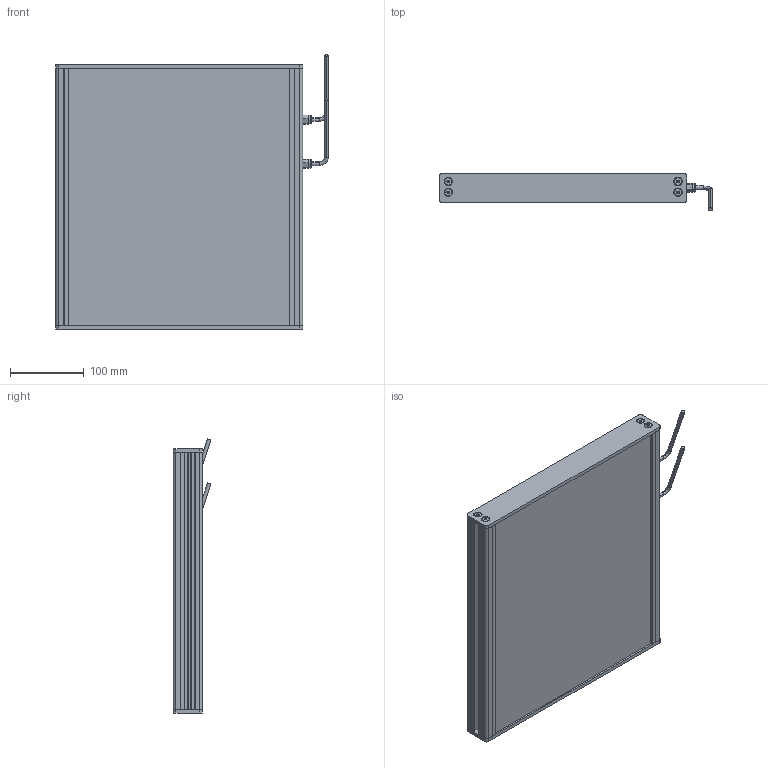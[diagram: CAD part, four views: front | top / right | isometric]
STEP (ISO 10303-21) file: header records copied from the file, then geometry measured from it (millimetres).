
FILE_DESCRIPTION (( 'STEP AP214' ), '1' );
FILE_NAME ('EFFI-BL-300-350T-2M12.STEP', '2021-07-02T09:25:50', ( '' ), ( '' ), 'SwSTEP 2.0', 'SolidWorks 2021', '' );
FILE_SCHEMA (( 'AUTOMOTIVE_DESIGN' ));
Length unit declared in the file: millimetre
Products named in the file (7): profile modif_lg 99.5 mm; bord fin modif_lg 436.5 mm; cordon_Avec cable; EFFI-BL-300-350T-2M12; 003776; Pièce2^EFFI-BL-XXX-YYYT + 2 M12
Assembly tree (15 placements, depth 2):
  EFFI-BL-300-350T-2M12
    bord fin modif_lg 436.5 mm  x2
    profile modif_lg 99.5 mm
    Pièce2^EFFI-BL-XXX-YYYT + 2 M12
    profile modif_lg 99.5 mm
    003776  x8
    cordon_Avec cable  x2
Bounding box: 371.15 x 51.6 x 373.14 mm (x, y, z)
Volume: 4181289.6 mm3; surface area: 429420.6 mm2
Topology: 13 solids, 25 shells, 669 faces, 1684 edges, 1078 vertices
Faces by surface type: plane 376, bspline 137, cylinder 116, cone 20, torus 20
Entity records: 16365 total; most frequent: CARTESIAN_POINT 5281, ORIENTED_EDGE 2154, DIRECTION 1887, EDGE_CURVE 1081, LINE 793, VECTOR 793, VERTEX_POINT 711, AXIS2_PLACEMENT_3D 547
